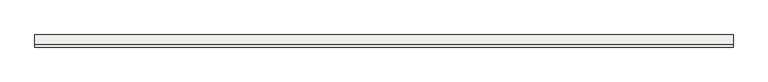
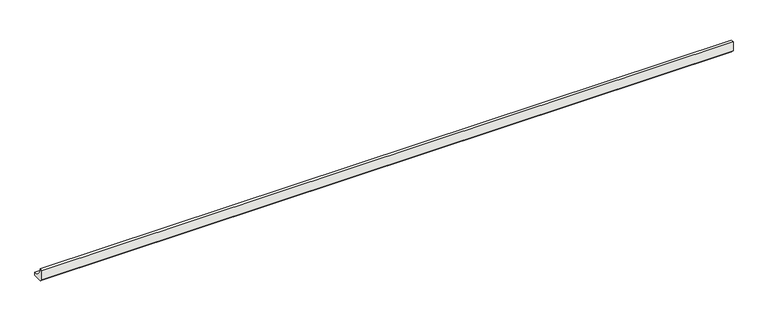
"""IFC4 building model written with IfcOpenShell, lengths in millimetres: slab geometry, ROSA GRES_188 : Pieza 188_Tresor_Bali_Anti-Slip."""

from ifc_helpers import new_model, si_unit, point, frame, frame_2d, origin, place, context, project, spatial, polyline, circle_curve, trimmed, segment, composite_curve, outline, extrude, source, transform, mapped, element, save


def slab_86962020(model_context):
    return source(origin(), model_context, "Body", "SweptSolid", [
        extrude(outline(composite_curve([segment(polyline([(0.0, 8.7114978), (0.0, 40.0), (9.9734114, 40.0)]), True, "CONTINUOUS"), segment(trimmed(circle_curve(frame_2d((39.9955547, 39.9955547)), 30.0221435), [point((9.9734114, 40.0))], [point((40.0, 9.9734114))], True, "CARTESIAN"), True, "CONTINUOUS"), segment(polyline([(40.0, 9.9734114), (40.0, 0.0), (8.7114978, 0.0), (0.0, 8.7114978)]), True, "CONTINUOUS")], self_intersect=False)), frame((0.0, 0.0, 0.0), z_axis=(1.0, 0.0, 0.0), x_axis=(0.0, 1.0, 0.0)), (0.0, 0.0, 1.0), 2305.0),
    ])


if __name__ == "__main__":
    model = new_model("IFC4")
    model_context = context("Model", 3, world=origin())
    ifc_project = project(units=[si_unit("LENGTHUNIT", "METRE", prefix="MILLI")], contexts=[model_context])
    site = spatial("IfcSite", under=ifc_project)
    building = spatial("IfcBuilding", under=site)
    placement = place(None, origin())
    slab_shape = slab_86962020(model_context)
    element("IfcSlab", 1, ObjectType="ROSA GRES_188 : Pieza 188_Tresor_Bali_Anti-Slip", at=placement, inside=building, context=model_context, shape_type="MappedRepresentation", body=[
        mapped(slab_shape, transform((0.0, 0.0, 0.0), x_axis=(1.0, 0.0, 0.0), y_axis=(0.0, 1.0, 0.0), z_axis=(0.0, 0.0, 1.0))),
    ])
    save(model, "model.ifc")
